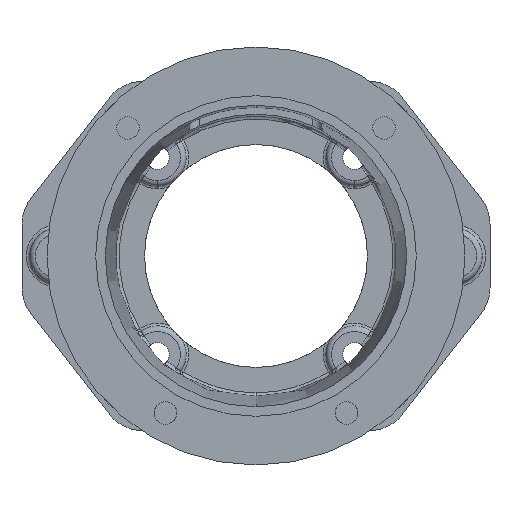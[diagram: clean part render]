
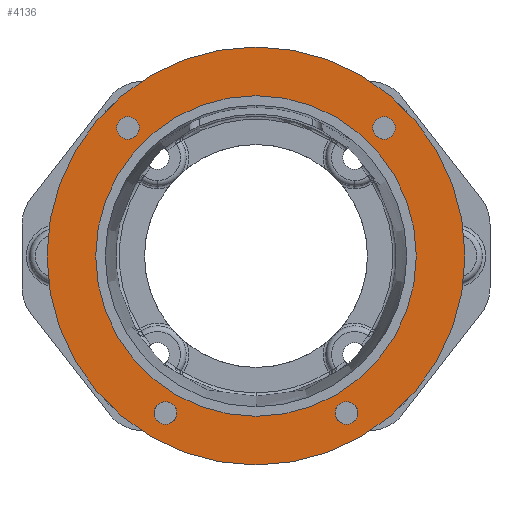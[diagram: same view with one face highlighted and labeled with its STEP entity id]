
A CAD part, front view. The second image highlights one B-rep face of the part: STEP entity #4136.
In plain terms, the highlighted planar face has unit normal (0, -1, 0).
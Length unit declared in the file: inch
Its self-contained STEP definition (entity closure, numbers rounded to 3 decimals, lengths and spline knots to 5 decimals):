
#28 = VERTEX_POINT ( 'NONE', #36 ) ;
#36 = CARTESIAN_POINT ( 'NONE',  ( -2.2981, 0., 2.50122 ) ) ;
#49 = VERTEX_POINT ( 'NONE', #1844 ) ;
#134 = DIRECTION ( 'NONE',  ( 0., 0., 1. ) ) ;
#306 = DIRECTION ( 'NONE',  ( 0., 0., 1. ) ) ;
#446 = FACE_BOUND ( 'NONE', #7518, .T. ) ;
#491 = DIRECTION ( 'NONE',  ( 0., 0., -1. ) ) ;
#533 = AXIS2_PLACEMENT_3D ( 'NONE', #5034, #5998, #134 ) ;
#541 = VERTEX_POINT ( 'NONE', #10676 ) ;
#945 = AXIS2_PLACEMENT_3D ( 'NONE', #11835, #11882, #10903 ) ;
#957 = CARTESIAN_POINT ( 'NONE',  ( 2.2981, 0., 2.2981 ) ) ;
#1070 = CIRCLE ( 'NONE', #7639, 2.876 ) ;
#1084 = CIRCLE ( 'NONE', #10332, 0.20312 ) ;
#1189 = EDGE_CURVE ( 'NONE', #7626, #49, #1070, .T. ) ;
#1487 = AXIS2_PLACEMENT_3D ( 'NONE', #1864, #10611, #5035 ) ;
#1636 = CARTESIAN_POINT ( 'NONE',  ( 2.2981, 0., 2.09497 ) ) ;
#1677 = FACE_BOUND ( 'NONE', #3416, .T. ) ;
#1693 = AXIS2_PLACEMENT_3D ( 'NONE', #6525, #2557, #8566 ) ;
#1788 = EDGE_LOOP ( 'NONE', ( #3675, #9369 ) ) ;
#1844 = CARTESIAN_POINT ( 'NONE',  ( 0., 0., 2.876 ) ) ;
#1864 = CARTESIAN_POINT ( 'NONE',  ( 0., 0., 0. ) ) ;
#1887 = AXIS2_PLACEMENT_3D ( 'NONE', #5448, #5521, #491 ) ;
#1947 = CARTESIAN_POINT ( 'NONE',  ( -1.625, 0., -2.61146 ) ) ;
#1958 = DIRECTION ( 'NONE',  ( 0., 0., 1. ) ) ;
#2071 = ORIENTED_EDGE ( 'NONE', *, *, #12449, .T. ) ;
#2105 = EDGE_LOOP ( 'NONE', ( #10884, #6633 ) ) ;
#2154 = CARTESIAN_POINT ( 'NONE',  ( -1.625, 0., -3.01771 ) ) ;
#2227 = EDGE_CURVE ( 'NONE', #9621, #11213, #2391, .T. ) ;
#2319 = ORIENTED_EDGE ( 'NONE', *, *, #12594, .T. ) ;
#2391 = CIRCLE ( 'NONE', #5355, 0.20312 ) ;
#2557 = DIRECTION ( 'NONE',  ( 0., 1., 0. ) ) ;
#2756 = DIRECTION ( 'NONE',  ( 0., 1., 0. ) ) ;
#3056 = CARTESIAN_POINT ( 'NONE',  ( -2.2981, 0., 2.09497 ) ) ;
#3275 = VERTEX_POINT ( 'NONE', #3056 ) ;
#3346 = EDGE_CURVE ( 'NONE', #7311, #5845, #3401, .T. ) ;
#3401 = CIRCLE ( 'NONE', #12457, 0.20313 ) ;
#3416 = EDGE_LOOP ( 'NONE', ( #11601, #4524 ) ) ;
#3447 = EDGE_CURVE ( 'NONE', #4137, #12068, #4905, .T. ) ;
#3499 = CARTESIAN_POINT ( 'NONE',  ( 1.625, 0., -2.81458 ) ) ;
#3577 = CARTESIAN_POINT ( 'NONE',  ( 0., 0., 0. ) ) ;
#3675 = ORIENTED_EDGE ( 'NONE', *, *, #1189, .F. ) ;
#3757 = CARTESIAN_POINT ( 'NONE',  ( 2.2981, 0., 2.50122 ) ) ;
#4136 = ADVANCED_FACE ( 'NONE', ( #10690, #1677, #446, #11456, #10840, #12664 ), #12118, .F. ) ;
#4137 = VERTEX_POINT ( 'NONE', #11949 ) ;
#4145 = DIRECTION ( 'NONE',  ( 0., 1., 0. ) ) ;
#4395 = DIRECTION ( 'NONE',  ( 0., 1., 0. ) ) ;
#4524 = ORIENTED_EDGE ( 'NONE', *, *, #3346, .T. ) ;
#4584 = DIRECTION ( 'NONE',  ( 0., -1., 0. ) ) ;
#4616 = DIRECTION ( 'NONE',  ( 0., 1., 0. ) ) ;
#4890 = EDGE_CURVE ( 'NONE', #49, #7626, #11602, .T. ) ;
#4905 = CIRCLE ( 'NONE', #12675, 0.20312 ) ;
#5034 = CARTESIAN_POINT ( 'NONE',  ( 1.625, 0., -2.81458 ) ) ;
#5035 = DIRECTION ( 'NONE',  ( 0., 0., -1. ) ) ;
#5080 = ORIENTED_EDGE ( 'NONE', *, *, #10309, .T. ) ;
#5259 = CARTESIAN_POINT ( 'NONE',  ( 0., 0., 0. ) ) ;
#5286 = CARTESIAN_POINT ( 'NONE',  ( -2.2981, 0., 2.2981 ) ) ;
#5355 = AXIS2_PLACEMENT_3D ( 'NONE', #10465, #4616, #11437 ) ;
#5448 = CARTESIAN_POINT ( 'NONE',  ( 0., 0., 0. ) ) ;
#5467 = CARTESIAN_POINT ( 'NONE',  ( 0., 0., 3.75 ) ) ;
#5521 = DIRECTION ( 'NONE',  ( 0., -1., 0. ) ) ;
#5667 = DIRECTION ( 'NONE',  ( 0., 0., 1. ) ) ;
#5676 = CIRCLE ( 'NONE', #945, 0.20313 ) ;
#5845 = VERTEX_POINT ( 'NONE', #3757 ) ;
#5998 = DIRECTION ( 'NONE',  ( 0., 1., 0. ) ) ;
#6088 = CIRCLE ( 'NONE', #1693, 0.20312 ) ;
#6185 = DIRECTION ( 'NONE',  ( 0., 0., -1. ) ) ;
#6263 = DIRECTION ( 'NONE',  ( 0., -1., 0. ) ) ;
#6381 = CIRCLE ( 'NONE', #7655, 0.20312 ) ;
#6506 = EDGE_CURVE ( 'NONE', #11213, #9621, #6088, .T. ) ;
#6525 = CARTESIAN_POINT ( 'NONE',  ( -1.625, 0., -2.81458 ) ) ;
#6633 = ORIENTED_EDGE ( 'NONE', *, *, #6506, .T. ) ;
#7048 = CARTESIAN_POINT ( 'NONE',  ( 1.625, 0., -3.01771 ) ) ;
#7300 = AXIS2_PLACEMENT_3D ( 'NONE', #3577, #4584, #9334 ) ;
#7311 = VERTEX_POINT ( 'NONE', #1636 ) ;
#7428 = EDGE_CURVE ( 'NONE', #5845, #7311, #5676, .T. ) ;
#7488 = EDGE_LOOP ( 'NONE', ( #7990, #12676 ) ) ;
#7518 = EDGE_LOOP ( 'NONE', ( #2319, #5080 ) ) ;
#7626 = VERTEX_POINT ( 'NONE', #11070 ) ;
#7639 = AXIS2_PLACEMENT_3D ( 'NONE', #5259, #6263, #6185 ) ;
#7655 = AXIS2_PLACEMENT_3D ( 'NONE', #5286, #4145, #12124 ) ;
#7664 = VERTEX_POINT ( 'NONE', #5467 ) ;
#7820 = DIRECTION ( 'NONE',  ( 0., 1., 0. ) ) ;
#7990 = ORIENTED_EDGE ( 'NONE', *, *, #9825, .T. ) ;
#8336 = CIRCLE ( 'NONE', #1487, 3.75 ) ;
#8397 = ORIENTED_EDGE ( 'NONE', *, *, #3447, .T. ) ;
#8566 = DIRECTION ( 'NONE',  ( 0., 0., 1. ) ) ;
#8598 = CARTESIAN_POINT ( 'NONE',  ( -2.2981, 0., 2.2981 ) ) ;
#8821 = EDGE_CURVE ( 'NONE', #7664, #541, #8336, .T. ) ;
#9334 = DIRECTION ( 'NONE',  ( 0., 0., -1. ) ) ;
#9369 = ORIENTED_EDGE ( 'NONE', *, *, #4890, .F. ) ;
#9543 = AXIS2_PLACEMENT_3D ( 'NONE', #12033, #10105, #306 ) ;
#9621 = VERTEX_POINT ( 'NONE', #1947 ) ;
#9825 = EDGE_CURVE ( 'NONE', #541, #7664, #11343, .T. ) ;
#10105 = DIRECTION ( 'NONE',  ( 0., 1., 0. ) ) ;
#10309 = EDGE_CURVE ( 'NONE', #3275, #28, #1084, .T. ) ;
#10332 = AXIS2_PLACEMENT_3D ( 'NONE', #8598, #2756, #5667 ) ;
#10465 = CARTESIAN_POINT ( 'NONE',  ( -1.625, 0., -2.81458 ) ) ;
#10611 = DIRECTION ( 'NONE',  ( 0., -1., 0. ) ) ;
#10676 = CARTESIAN_POINT ( 'NONE',  ( 0., 0., -3.75 ) ) ;
#10690 = FACE_BOUND ( 'NONE', #11151, .T. ) ;
#10840 = FACE_BOUND ( 'NONE', #1788, .T. ) ;
#10884 = ORIENTED_EDGE ( 'NONE', *, *, #2227, .T. ) ;
#10903 = DIRECTION ( 'NONE',  ( 0., 0., 1. ) ) ;
#11070 = CARTESIAN_POINT ( 'NONE',  ( 0., 0., -2.876 ) ) ;
#11151 = EDGE_LOOP ( 'NONE', ( #8397, #2071 ) ) ;
#11213 = VERTEX_POINT ( 'NONE', #2154 ) ;
#11286 = DIRECTION ( 'NONE',  ( 0., 0., 1. ) ) ;
#11343 = CIRCLE ( 'NONE', #1887, 3.75 ) ;
#11437 = DIRECTION ( 'NONE',  ( 0., 0., 1. ) ) ;
#11451 = CIRCLE ( 'NONE', #533, 0.20312 ) ;
#11456 = FACE_BOUND ( 'NONE', #2105, .T. ) ;
#11601 = ORIENTED_EDGE ( 'NONE', *, *, #7428, .T. ) ;
#11602 = CIRCLE ( 'NONE', #7300, 2.876 ) ;
#11835 = CARTESIAN_POINT ( 'NONE',  ( 2.2981, 0., 2.2981 ) ) ;
#11882 = DIRECTION ( 'NONE',  ( 0., 1., 0. ) ) ;
#11949 = CARTESIAN_POINT ( 'NONE',  ( 1.625, 0., -2.61146 ) ) ;
#12033 = CARTESIAN_POINT ( 'NONE',  ( -3.75, 0., 0. ) ) ;
#12068 = VERTEX_POINT ( 'NONE', #7048 ) ;
#12118 = PLANE ( 'NONE',  #9543 ) ;
#12124 = DIRECTION ( 'NONE',  ( 0., 0., 1. ) ) ;
#12449 = EDGE_CURVE ( 'NONE', #12068, #4137, #11451, .T. ) ;
#12457 = AXIS2_PLACEMENT_3D ( 'NONE', #957, #7820, #1958 ) ;
#12594 = EDGE_CURVE ( 'NONE', #28, #3275, #6381, .T. ) ;
#12664 = FACE_OUTER_BOUND ( 'NONE', #7488, .T. ) ;
#12675 = AXIS2_PLACEMENT_3D ( 'NONE', #3499, #4395, #11286 ) ;
#12676 = ORIENTED_EDGE ( 'NONE', *, *, #8821, .T. ) ;
